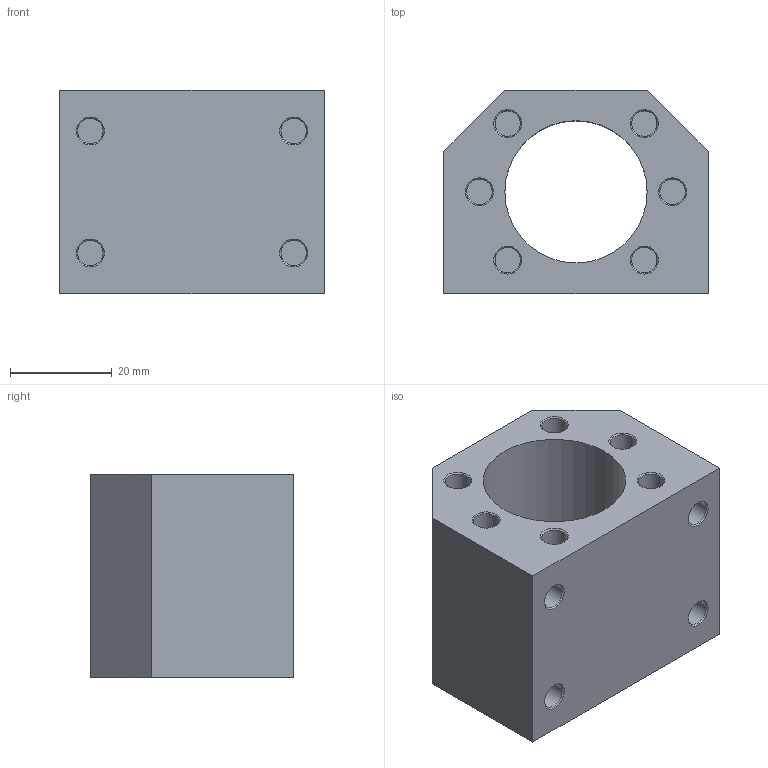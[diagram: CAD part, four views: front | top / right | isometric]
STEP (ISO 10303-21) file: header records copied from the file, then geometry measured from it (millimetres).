
FILE_DESCRIPTION (( 'STEP AP214' ), '1' );
FILE_NAME ('DSG16H.STEP', '2022-04-21T10:29:47', ( '' ), ( '' ), 'SwSTEP 2.0', 'SolidWorks 2019', '' );
FILE_SCHEMA (( 'AUTOMOTIVE_DESIGN' ));
Length unit declared in the file: millimetre
Products named in the file (1): DSG16H
Bounding box: 52 x 40 x 40 mm (x, y, z)
Volume: 50700 mm3; surface area: 14618.4 mm2
Topology: 1 solids, 1 shells, 60 faces, 132 edges, 84 vertices
Faces by surface type: cylinder 22, cone 20, plane 18
Entity records: 1930 total; most frequent: DIRECTION 326, CARTESIAN_POINT 277, ORIENTED_EDGE 264, AXIS2_PLACEMENT_3D 133, EDGE_CURVE 132, VERTEX_POINT 84, EDGE_LOOP 72, CIRCLE 72
